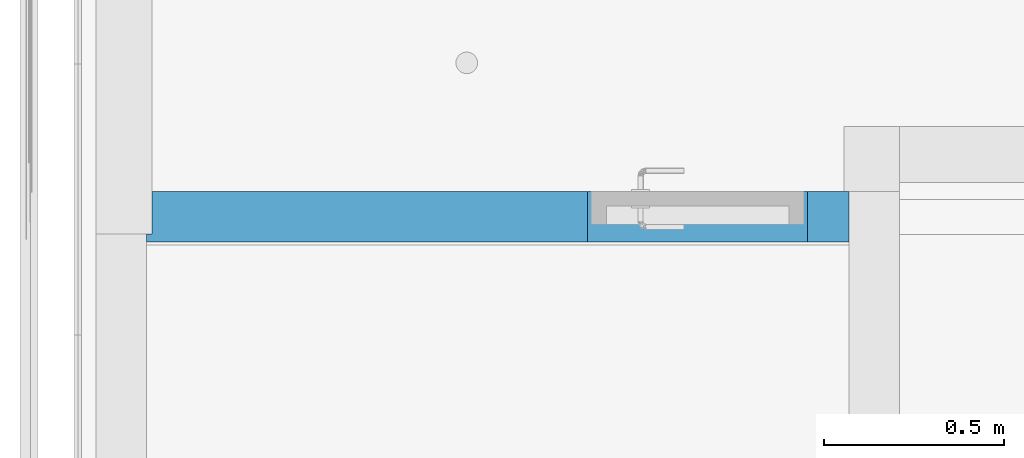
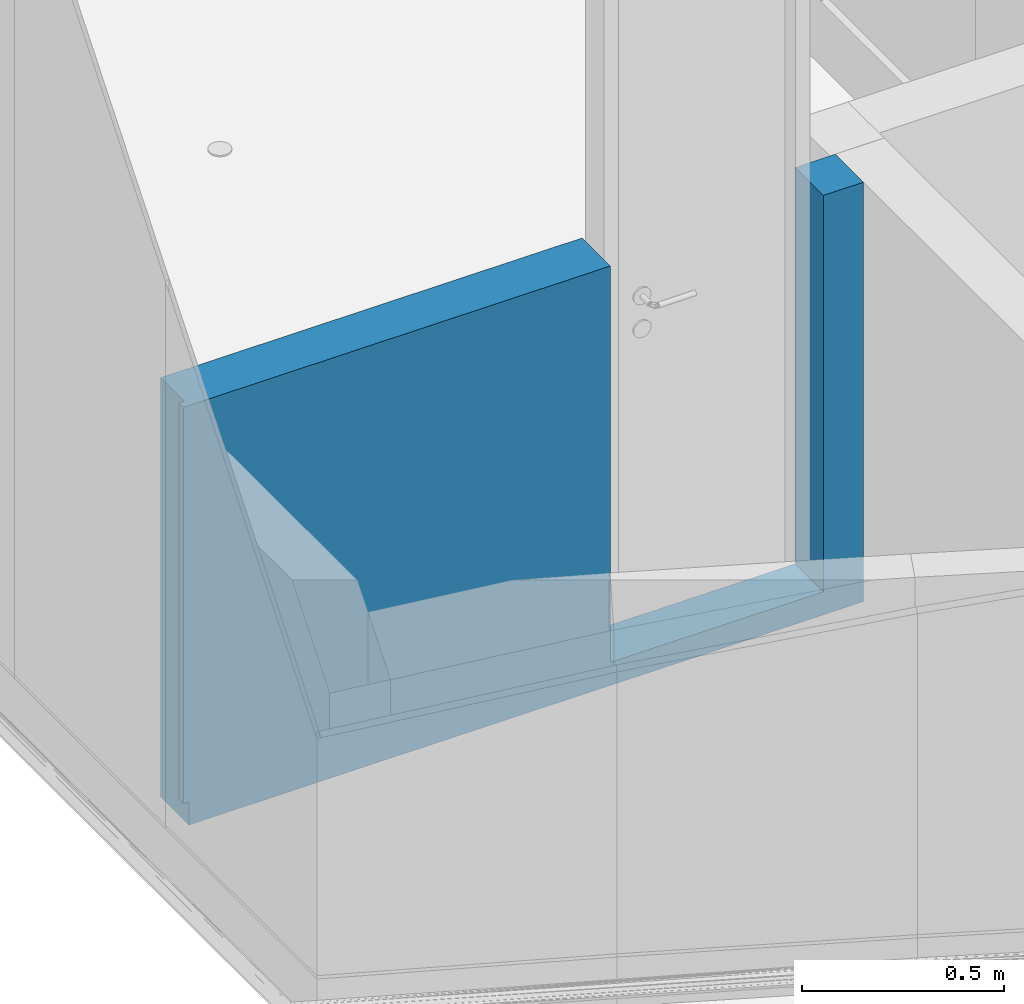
# One storey, part 7 of 16: 1 wall, 1 opening.
"""IFC2X3 building model written with IfcOpenShell, lengths in millimetres."""

from ifc_helpers import new_model, entity, si_unit, converted_unit, derived_unit, direction, frame, frame_2d, origin_with_axes, place, context, subcontext, project, spatial, rectangle, extrude, faceted_brep, material, layer, layer_set, type_object, element, save


model = new_model("IFC2X3")

# Units and contexts
model_context = context("Model", 3, precision=0.01, world=frame((0.0, 4.29681676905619e-09, 0.0)), true_north=direction((4.01073788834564e-13, 1.0)))
plan_context = context("Plan", 3, precision=0.01, world=frame((0.0, 4.29681676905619e-09, 0.0)), true_north=direction((4.01073788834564e-13, 1.0)))
body_context = subcontext(model_context, "Body", "Model", "MODEL_VIEW")
ifc_project = project(units=[converted_unit("PLANEANGLEUNIT", "DEGREE", entity("IfcPositiveLengthMeasure", 0.0174532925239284), si_unit("PLANEANGLEUNIT", "RADIAN"), dimensions=[0, 0, 0, 0, 0, 0, 0]), si_unit("AREAUNIT", "SQUARE_METRE"), si_unit("LENGTHUNIT", "METRE", prefix="MILLI"), si_unit("MASSUNIT", "GRAM", prefix="KILO"), si_unit("POWERUNIT", "WATT"), si_unit("PRESSUREUNIT", "PASCAL"), si_unit("FORCEUNIT", "NEWTON", prefix="KILO"), si_unit("ELECTRICCURRENTUNIT", "AMPERE"), si_unit("THERMODYNAMICTEMPERATUREUNIT", "DEGREE_CELSIUS"), si_unit("TIMEUNIT", "SECOND"), si_unit("VOLUMEUNIT", "CUBIC_METRE"), derived_unit("LINEARVELOCITYUNIT", [(si_unit("LENGTHUNIT", "METRE"), 1), (si_unit("TIMEUNIT", "SECOND"), -1)]), derived_unit("VOLUMETRICFLOWRATEUNIT", [(si_unit("VOLUMEUNIT", "CUBIC_METRE"), 1), (si_unit("TIMEUNIT", "SECOND"), -1)]), derived_unit("THERMALTRANSMITTANCEUNIT", [(si_unit("POWERUNIT", "WATT"), 1), (si_unit("THERMODYNAMICTEMPERATUREUNIT", "KELVIN"), -1), (si_unit("AREAUNIT", "SQUARE_METRE"), -1)])], contexts=[model_context, plan_context])

# Site, building, storey
site_placement = place(None, origin_with_axes())
site = spatial("IfcSite", under=ifc_project, at=site_placement, Name="ENGM", CompositionType="ELEMENT")
building_placement = place(site_placement, origin_with_axes())
building = spatial("IfcBuilding", under=site, at=building_placement, Name="TS", CompositionType="ELEMENT")
storey_placement = place(building_placement, frame((0.0, 0.0, 204000.0), z_axis=(0.0, 0.0, 1.0), x_axis=(1.0, 0.0, 0.0)))
storey = spatial("IfcBuildingStorey", under=building, at=storey_placement, Name="Nivå D", CompositionType="ELEMENT", Elevation=204000.0)

# Wall, opening
ifc_material_1 = material(Name="Plate - Gips")
ifc_layer_1 = layer(ifc_material_1, 12.5)
ifc_material_2 = material(Name="_NSW X-finer")
ifc_layer_2 = layer(ifc_material_2, 15.0)
ifc_material_3 = material(Name="_NSW Stålstender, uisolert")
ifc_layer_3 = layer(ifc_material_3, 100.0)
ifc_layer_4 = layer(ifc_material_1, 12.5)
ifc_layer_set = layer_set([ifc_layer_1, ifc_layer_2, ifc_layer_3, ifc_layer_4], Name="Basic Wall:A241 - SXVS-100")
wall_type = type_object("IfcWallType", Name="Basic Wall:A241 - SXVS-100", PredefinedType="STANDARD", material=ifc_layer_set)
wall_placement = place(storey_placement, frame((514062.500000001, 414507.499999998, -70.0), z_axis=(0.0, 0.0, 1.0), x_axis=(1.0, 0.0, 0.0)))
wall = element("IfcWall", 1, at=wall_placement, inside=storey, type_object=wall_type, Name="Basic Wall:A241 - SXVS-100", ObjectType="Basic Wall:A241 - SXVS-100", context=body_context, shape_type="Brep", body=[
    faceted_brep([(15.0, -70.0, 0.0), (1947.0, -70.0, 0.0), (1947.0, -70.0, 1270.0), (1832.0, -70.0, 1270.0), (1832.0, -70.0, 70.0), (1222.0, -70.0, 70.0), (1222.0, -70.0, 1270.0), (0.0, -70.0, 1270.0), (0.0, -70.0, 70.0), (15.0, -70.0, 70.0), (1947.0, 70.0, 0.0), (15.0, 70.0, 0.0), (15.0, 70.0, 70.0), (15.0, 70.0, 1270.0), (1222.0, 70.0, 1270.0), (1222.0, 70.0, 70.0), (1832.0, 70.0, 70.0), (1832.0, 70.0, 1270.0), (1947.0, 70.0, 1270.0), (1947.0, 70.0, 70.0), (15.0, -47.4999998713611, 0.0), (15.0, -47.4999998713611, 70.0), (0.0, -47.4999998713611, 70.0), (0.0, -47.4999998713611, 1270.0), (15.0, -47.4999998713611, 1270.0)], [[[0, 1, 2, 3, 4, 5, 6, 7, 8, 9]], [[10, 11, 12, 13, 14, 15, 16, 17, 18, 19]], [[1, 0, 20, 11, 10]], [[10, 19, 18, 2, 1]], [[16, 4, 3, 17]], [[5, 15, 14, 6]], [[5, 4, 16, 15]], [[21, 22, 23, 24]], [[12, 21, 24, 13]], [[9, 8, 22, 21]], [[0, 9, 21, 12, 11, 20]], [[22, 8, 7, 23]], [[7, 6, 14, 13, 24, 23]], [[3, 2, 18, 17]]]),
])
opening_placement = place(wall_placement, frame((1222.0, -70.0, 70.0), z_axis=(0.0, 0.0, 1.0), x_axis=(1.0, 0.0, 0.0)))
element("IfcOpeningElement", 2, at=opening_placement, cuts=wall, Name="A20 - Slagdør - Enkel:A243 - DI_SSO - 0590 x 2090 mm:1", ObjectType="Opening", context=body_context, shape_type="SweptSolid", body=[
    extrude(rectangle(XDim=2109.99999999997, YDim=610.0, at=frame_2d((1054.99999999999, 305.0), x_axis=(1.0, 0.0))), frame((0.0, 0.0, 0.0), z_axis=(0.0, 1.0, 0.0), x_axis=(0.0, 0.0, 1.0)), (0.0, 0.0, 1.0), 140.0),
])

save(model, "model.ifc")
